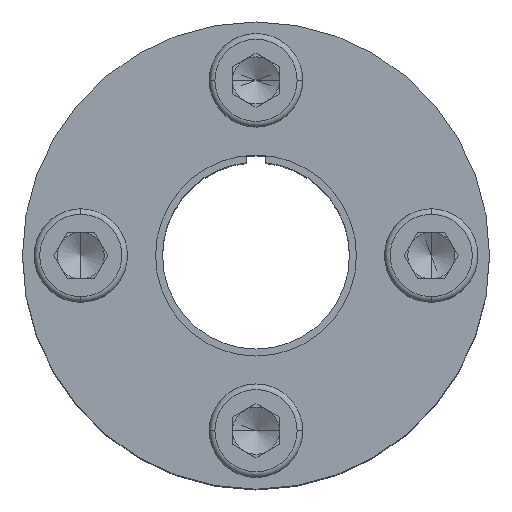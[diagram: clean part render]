
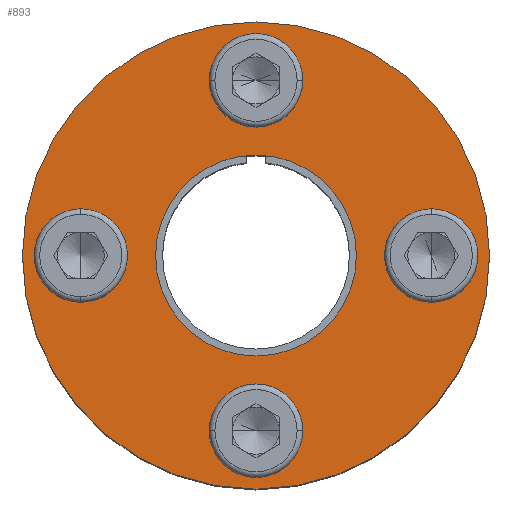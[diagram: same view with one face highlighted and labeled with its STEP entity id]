
A CAD part, top view. The second image highlights one B-rep face of the part: STEP entity #893.
In plain terms, the highlighted planar face has unit normal (0, 0, 1).
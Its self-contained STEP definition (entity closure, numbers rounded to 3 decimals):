
#101 = DIRECTION ( 'NONE',  ( 1., 0., 0. ) ) ;
#126 = CARTESIAN_POINT ( 'NONE',  ( -18.75, 0., 48.495 ) ) ;
#161 = VERTEX_POINT ( 'NONE', #4699 ) ;
#196 = AXIS2_PLACEMENT_3D ( 'NONE', #567, #4128, #1078 ) ;
#246 = DIRECTION ( 'NONE',  ( 1., 0., 0. ) ) ;
#386 = CARTESIAN_POINT ( 'NONE',  ( -10.75, 0., 48.495 ) ) ;
#417 = DIRECTION ( 'NONE',  ( 0., 0., -1. ) ) ;
#429 = CARTESIAN_POINT ( 'NONE',  ( 0., 0., 48.495 ) ) ;
#458 = ORIENTED_EDGE ( 'NONE', *, *, #5345, .T. ) ;
#468 = AXIS2_PLACEMENT_3D ( 'NONE', #1257, #4808, #1752 ) ;
#482 = ORIENTED_EDGE ( 'NONE', *, *, #3939, .T. ) ;
#493 = AXIS2_PLACEMENT_3D ( 'NONE', #4883, #1832, #5423 ) ;
#567 = CARTESIAN_POINT ( 'NONE',  ( 0., 0., 48.495 ) ) ;
#588 = CARTESIAN_POINT ( 'NONE',  ( 0., 0., 48.495 ) ) ;
#637 = DIRECTION ( 'NONE',  ( 1., 0., 0. ) ) ;
#700 = CARTESIAN_POINT ( 'NONE',  ( 0., 0., 48.495 ) ) ;
#752 = AXIS2_PLACEMENT_3D ( 'NONE', #588, #4143, #1103 ) ;
#893 = ADVANCED_FACE ( 'NONE', ( #1089, #5173, #6370, #5003, #3628, #2279 ), #4482, .F. ) ;
#941 = DIRECTION ( 'NONE',  ( 1., 0., 0. ) ) ;
#977 = EDGE_LOOP ( 'NONE', ( #6146, #458 ) ) ;
#1078 = DIRECTION ( 'NONE',  ( 1., 0., 0. ) ) ;
#1089 = FACE_BOUND ( 'NONE', #6100, .T. ) ;
#1103 = DIRECTION ( 'NONE',  ( 1., 0., 0. ) ) ;
#1149 = AXIS2_PLACEMENT_3D ( 'NONE', #6358, #3302, #246 ) ;
#1214 = CIRCLE ( 'NONE', #468, 3.5 ) ;
#1218 = DIRECTION ( 'NONE',  ( 1., 0., 0. ) ) ;
#1257 = CARTESIAN_POINT ( 'NONE',  ( 18.75, 0., 48.495 ) ) ;
#1349 = ORIENTED_EDGE ( 'NONE', *, *, #4317, .F. ) ;
#1399 = AXIS2_PLACEMENT_3D ( 'NONE', #429, #4004, #941 ) ;
#1446 = DIRECTION ( 'NONE',  ( 0., 0., -1. ) ) ;
#1473 = VERTEX_POINT ( 'NONE', #2163 ) ;
#1582 = ORIENTED_EDGE ( 'NONE', *, *, #5352, .T. ) ;
#1657 = CARTESIAN_POINT ( 'NONE',  ( 0., -18.75, 48.495 ) ) ;
#1702 = EDGE_CURVE ( 'NONE', #161, #1473, #4287, .T. ) ;
#1718 = CIRCLE ( 'NONE', #752, 10.75 ) ;
#1752 = DIRECTION ( 'NONE',  ( 1., 0., 0. ) ) ;
#1832 = DIRECTION ( 'NONE',  ( 0., 0., -1. ) ) ;
#1874 = EDGE_CURVE ( 'NONE', #3014, #3859, #3970, .T. ) ;
#1910 = EDGE_CURVE ( 'NONE', #5519, #5351, #3335, .T. ) ;
#1924 = AXIS2_PLACEMENT_3D ( 'NONE', #700, #4256, #1218 ) ;
#1937 = CARTESIAN_POINT ( 'NONE',  ( 0., 18.75, 48.495 ) ) ;
#2005 = EDGE_LOOP ( 'NONE', ( #1582, #6036 ) ) ;
#2037 = VERTEX_POINT ( 'NONE', #5827 ) ;
#2050 = CARTESIAN_POINT ( 'NONE',  ( -3.5, 18.75, 48.495 ) ) ;
#2105 = CARTESIAN_POINT ( 'NONE',  ( 22.25, 0., 48.495 ) ) ;
#2134 = CARTESIAN_POINT ( 'NONE',  ( 10.75, 0., 48.495 ) ) ;
#2156 = DIRECTION ( 'NONE',  ( 1., 0., 0. ) ) ;
#2163 = CARTESIAN_POINT ( 'NONE',  ( -15.25, 0., 48.495 ) ) ;
#2228 = AXIS2_PLACEMENT_3D ( 'NONE', #6213, #3146, #101 ) ;
#2279 = FACE_OUTER_BOUND ( 'NONE', #3870, .T. ) ;
#2365 = VERTEX_POINT ( 'NONE', #2105 ) ;
#2451 = DIRECTION ( 'NONE',  ( 1., 0., 0. ) ) ;
#2482 = EDGE_CURVE ( 'NONE', #3195, #4819, #3943, .T. ) ;
#2574 = EDGE_LOOP ( 'NONE', ( #3614, #3289 ) ) ;
#2576 = CIRCLE ( 'NONE', #493, 3.5 ) ;
#2735 = CIRCLE ( 'NONE', #5853, 3.5 ) ;
#2855 = ORIENTED_EDGE ( 'NONE', *, *, #1874, .T. ) ;
#2913 = AXIS2_PLACEMENT_3D ( 'NONE', #4499, #1446, #5015 ) ;
#2969 = CIRCLE ( 'NONE', #5095, 3.5 ) ;
#3014 = VERTEX_POINT ( 'NONE', #2134 ) ;
#3019 = EDGE_CURVE ( 'NONE', #5351, #5519, #5742, .T. ) ;
#3117 = AXIS2_PLACEMENT_3D ( 'NONE', #1657, #5244, #2156 ) ;
#3146 = DIRECTION ( 'NONE',  ( 0., 0., -1. ) ) ;
#3195 = VERTEX_POINT ( 'NONE', #6425 ) ;
#3289 = ORIENTED_EDGE ( 'NONE', *, *, #1910, .T. ) ;
#3302 = DIRECTION ( 'NONE',  ( 0., 0., -1. ) ) ;
#3335 = CIRCLE ( 'NONE', #2228, 3.5 ) ;
#3467 = CARTESIAN_POINT ( 'NONE',  ( -18.75, 0., 48.495 ) ) ;
#3511 = AXIS2_PLACEMENT_3D ( 'NONE', #3467, #417, #3991 ) ;
#3614 = ORIENTED_EDGE ( 'NONE', *, *, #3019, .T. ) ;
#3628 = FACE_BOUND ( 'NONE', #6346, .T. ) ;
#3680 = DIRECTION ( 'NONE',  ( 0., 0., -1. ) ) ;
#3793 = CARTESIAN_POINT ( 'NONE',  ( 3.5, -18.75, 48.495 ) ) ;
#3859 = VERTEX_POINT ( 'NONE', #386 ) ;
#3870 = EDGE_LOOP ( 'NONE', ( #5682, #1349 ) ) ;
#3939 = EDGE_CURVE ( 'NONE', #3859, #3014, #1718, .T. ) ;
#3943 = CIRCLE ( 'NONE', #1924, 25. ) ;
#3970 = CIRCLE ( 'NONE', #196, 10.75 ) ;
#3991 = DIRECTION ( 'NONE',  ( 1., 0., 0. ) ) ;
#4004 = DIRECTION ( 'NONE',  ( 0., 0., -1. ) ) ;
#4098 = CARTESIAN_POINT ( 'NONE',  ( 3.5, 18.75, 48.495 ) ) ;
#4128 = DIRECTION ( 'NONE',  ( 0., 0., -1. ) ) ;
#4143 = DIRECTION ( 'NONE',  ( 0., 0., -1. ) ) ;
#4168 = EDGE_CURVE ( 'NONE', #2365, #2037, #2576, .T. ) ;
#4256 = DIRECTION ( 'NONE',  ( 0., 0., -1. ) ) ;
#4287 = CIRCLE ( 'NONE', #3511, 3.5 ) ;
#4317 = EDGE_CURVE ( 'NONE', #4819, #3195, #5072, .T. ) ;
#4430 = CARTESIAN_POINT ( 'NONE',  ( -3.5, -18.75, 48.495 ) ) ;
#4441 = CARTESIAN_POINT ( 'NONE',  ( 25., 0., 48.495 ) ) ;
#4482 = PLANE ( 'NONE',  #2913 ) ;
#4499 = CARTESIAN_POINT ( 'NONE',  ( 0., 0., 48.495 ) ) ;
#4699 = CARTESIAN_POINT ( 'NONE',  ( -22.25, 0., 48.495 ) ) ;
#4808 = DIRECTION ( 'NONE',  ( 0., 0., -1. ) ) ;
#4819 = VERTEX_POINT ( 'NONE', #4441 ) ;
#4883 = CARTESIAN_POINT ( 'NONE',  ( 18.75, 0., 48.495 ) ) ;
#5003 = FACE_BOUND ( 'NONE', #2574, .T. ) ;
#5015 = DIRECTION ( 'NONE',  ( 1., 0., 0. ) ) ;
#5072 = CIRCLE ( 'NONE', #1399, 25. ) ;
#5095 = AXIS2_PLACEMENT_3D ( 'NONE', #1937, #5521, #2451 ) ;
#5108 = VERTEX_POINT ( 'NONE', #2050 ) ;
#5120 = CIRCLE ( 'NONE', #1149, 3.5 ) ;
#5173 = FACE_BOUND ( 'NONE', #2005, .T. ) ;
#5244 = DIRECTION ( 'NONE',  ( 0., 0., -1. ) ) ;
#5345 = EDGE_CURVE ( 'NONE', #2037, #2365, #1214, .T. ) ;
#5351 = VERTEX_POINT ( 'NONE', #3793 ) ;
#5352 = EDGE_CURVE ( 'NONE', #6296, #5108, #5120, .T. ) ;
#5423 = DIRECTION ( 'NONE',  ( 1., 0., 0. ) ) ;
#5519 = VERTEX_POINT ( 'NONE', #4430 ) ;
#5521 = DIRECTION ( 'NONE',  ( 0., 0., -1. ) ) ;
#5682 = ORIENTED_EDGE ( 'NONE', *, *, #2482, .F. ) ;
#5742 = CIRCLE ( 'NONE', #3117, 3.5 ) ;
#5795 = ORIENTED_EDGE ( 'NONE', *, *, #6510, .T. ) ;
#5827 = CARTESIAN_POINT ( 'NONE',  ( 15.25, 0., 48.495 ) ) ;
#5853 = AXIS2_PLACEMENT_3D ( 'NONE', #126, #3680, #637 ) ;
#6036 = ORIENTED_EDGE ( 'NONE', *, *, #6174, .T. ) ;
#6100 = EDGE_LOOP ( 'NONE', ( #5795, #6315 ) ) ;
#6146 = ORIENTED_EDGE ( 'NONE', *, *, #4168, .T. ) ;
#6174 = EDGE_CURVE ( 'NONE', #5108, #6296, #2969, .T. ) ;
#6213 = CARTESIAN_POINT ( 'NONE',  ( 0., -18.75, 48.495 ) ) ;
#6296 = VERTEX_POINT ( 'NONE', #4098 ) ;
#6315 = ORIENTED_EDGE ( 'NONE', *, *, #1702, .T. ) ;
#6346 = EDGE_LOOP ( 'NONE', ( #2855, #482 ) ) ;
#6358 = CARTESIAN_POINT ( 'NONE',  ( 0., 18.75, 48.495 ) ) ;
#6370 = FACE_BOUND ( 'NONE', #977, .T. ) ;
#6425 = CARTESIAN_POINT ( 'NONE',  ( -25., 0., 48.495 ) ) ;
#6510 = EDGE_CURVE ( 'NONE', #1473, #161, #2735, .T. ) ;
